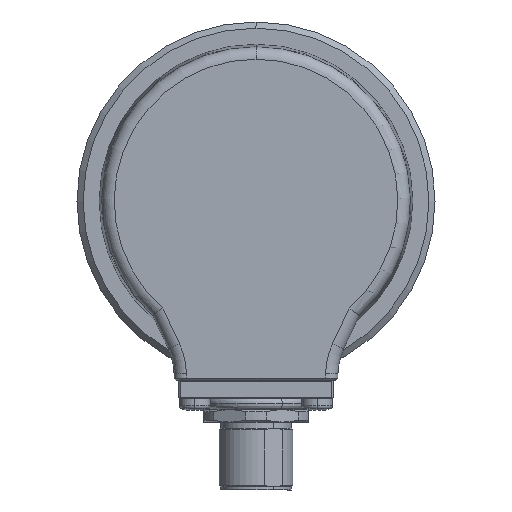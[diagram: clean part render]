
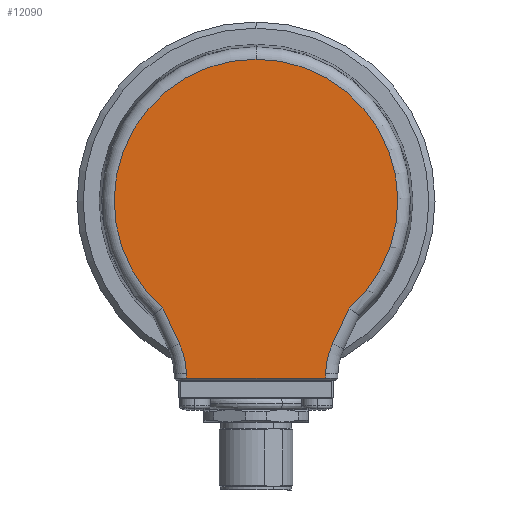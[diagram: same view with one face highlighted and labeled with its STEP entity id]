
A CAD part, left-side view. The second image highlights one B-rep face of the part: STEP entity #12090.
In plain terms, the highlighted planar face has unit normal (-1, 0, 0).
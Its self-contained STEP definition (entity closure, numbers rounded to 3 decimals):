
#1058 = EDGE_CURVE ( 'NONE', #14177, #10024, #5100, .T. ) ;
#1109 = EDGE_CURVE ( 'NONE', #10024, #13665, #5031, .T. ) ;
#1152 = EDGE_CURVE ( 'NONE', #13665, #1237, #4848, .T. ) ;
#1237 = VERTEX_POINT ( 'NONE', #5118 ) ;
#1255 = EDGE_CURVE ( 'NONE', #1237, #9789, #4640, .T. ) ;
#1295 = EDGE_CURVE ( 'NONE', #9789, #9384, #4539, .T. ) ;
#1359 = EDGE_CURVE ( 'NONE', #9384, #13023, #4304, .T. ) ;
#1466 = EDGE_CURVE ( 'NONE', #12086, #14967, #4119, .T. ) ;
#1594 = EDGE_CURVE ( 'NONE', #14967, #14177, #3688, .T. ) ;
#2880 = CARTESIAN_POINT ( 'NONE',  ( -21., 11.752, -0.205 ) ) ;
#3174 = DIRECTION ( 'NONE',  ( 0., -0.017, -1. ) ) ;
#3248 = DIRECTION ( 'NONE',  ( -1., 0., 0. ) ) ;
#3257 = DIRECTION ( 'NONE',  ( 0., 0., 1. ) ) ;
#3438 = CARTESIAN_POINT ( 'NONE',  ( -21., -11.25, -28.695 ) ) ;
#3457 = DIRECTION ( 'NONE',  ( 0., -1., 0. ) ) ;
#3688 = CIRCLE ( 'NONE', #9121, 12. ) ;
#3986 = CARTESIAN_POINT ( 'NONE',  ( -21., -11.752, -0.205 ) ) ;
#4023 = CARTESIAN_POINT ( 'NONE',  ( -21., 11.268, -27.974 ) ) ;
#4025 = DIRECTION ( 'NONE',  ( 0., -0.017, 1. ) ) ;
#4119 = LINE ( 'NONE', #13071, #4154 ) ;
#4154 = VECTOR ( 'NONE', #14688, 1000. ) ;
#4304 = CIRCLE ( 'NONE', #10654, 22.972 ) ;
#4424 = CARTESIAN_POINT ( 'NONE',  ( -21., 11.255, -28.695 ) ) ;
#4539 = LINE ( 'NONE', #7957, #4561 ) ;
#4558 = EDGE_CURVE ( 'NONE', #13023, #12086, #13241, .T. ) ;
#4561 = VECTOR ( 'NONE', #5171, 1000. ) ;
#4640 = CIRCLE ( 'NONE', #11140, 12. ) ;
#4848 = LINE ( 'NONE', #3986, #4880 ) ;
#4880 = VECTOR ( 'NONE', #4025, 1000. ) ;
#4921 = DIRECTION ( 'NONE',  ( 1., 0., 0. ) ) ;
#4994 = CARTESIAN_POINT ( 'NONE',  ( -21., 23.266, -28.183 ) ) ;
#4998 = DIRECTION ( 'NONE',  ( 0., 0., 1. ) ) ;
#5005 = VECTOR ( 'NONE', #3457, 1000. ) ;
#5031 = LINE ( 'NONE', #3438, #5005 ) ;
#5066 = VECTOR ( 'NONE', #3174, 1000. ) ;
#5100 = LINE ( 'NONE', #2880, #5066 ) ;
#5118 = CARTESIAN_POINT ( 'NONE',  ( -21., -11.268, -27.974 ) ) ;
#5171 = DIRECTION ( 'NONE',  ( 0., -0.423, 0.906 ) ) ;
#5293 = CARTESIAN_POINT ( 'NONE',  ( -21., -23.266, -28.183 ) ) ;
#5311 = DIRECTION ( 'NONE',  ( 1., 0., 0. ) ) ;
#5387 = DIRECTION ( 'NONE',  ( 0., 0., 1. ) ) ;
#6010 = CARTESIAN_POINT ( 'NONE',  ( -21., 0., 22.972 ) ) ;
#6525 = ORIENTED_EDGE ( 'NONE', *, *, #1109, .T. ) ;
#6612 = CARTESIAN_POINT ( 'NONE',  ( -21., -11.255, -28.695 ) ) ;
#7502 = FACE_OUTER_BOUND ( 'NONE', #10216, .T. ) ;
#7622 = DIRECTION ( 'NONE',  ( 0., 0., 1. ) ) ;
#7769 = ORIENTED_EDGE ( 'NONE', *, *, #4558, .T. ) ;
#7957 = CARTESIAN_POINT ( 'NONE',  ( -21., -14.953, -17.615 ) ) ;
#8570 = CARTESIAN_POINT ( 'NONE',  ( -21., 0., 0. ) ) ;
#8588 = DIRECTION ( 'NONE',  ( -1., 0., 0. ) ) ;
#9036 = ORIENTED_EDGE ( 'NONE', *, *, #1466, .T. ) ;
#9121 = AXIS2_PLACEMENT_3D ( 'NONE', #4994, #4921, #4998 ) ;
#9356 = CARTESIAN_POINT ( 'NONE',  ( -21., -12.39, -23.112 ) ) ;
#9384 = VERTEX_POINT ( 'NONE', #15368 ) ;
#9569 = DIRECTION ( 'NONE',  ( 0., 0., 1. ) ) ;
#9590 = DIRECTION ( 'NONE',  ( 1., 0., 0. ) ) ;
#9610 = PLANE ( 'NONE',  #16638 ) ;
#9675 = CARTESIAN_POINT ( 'NONE',  ( -21., 15.091, -17.32 ) ) ;
#9698 = ORIENTED_EDGE ( 'NONE', *, *, #1359, .T. ) ;
#9754 = CARTESIAN_POINT ( 'NONE',  ( -21., 0., 0. ) ) ;
#9789 = VERTEX_POINT ( 'NONE', #9356 ) ;
#10024 = VERTEX_POINT ( 'NONE', #4424 ) ;
#10216 = EDGE_LOOP ( 'NONE', ( #11151, #6525, #11780, #10744, #10304, #9698, #7769, #9036, #10508 ) ) ;
#10304 = ORIENTED_EDGE ( 'NONE', *, *, #1295, .T. ) ;
#10508 = ORIENTED_EDGE ( 'NONE', *, *, #1594, .T. ) ;
#10654 = AXIS2_PLACEMENT_3D ( 'NONE', #8570, #8588, #3257 ) ;
#10744 = ORIENTED_EDGE ( 'NONE', *, *, #1255, .T. ) ;
#11140 = AXIS2_PLACEMENT_3D ( 'NONE', #5293, #5311, #5387 ) ;
#11151 = ORIENTED_EDGE ( 'NONE', *, *, #1058, .T. ) ;
#11780 = ORIENTED_EDGE ( 'NONE', *, *, #1152, .T. ) ;
#12086 = VERTEX_POINT ( 'NONE', #9675 ) ;
#12090 = ADVANCED_FACE ( 'NONE', ( #7502 ), #9610, .F. ) ;
#12829 = CARTESIAN_POINT ( 'NONE',  ( -21., 12.39, -23.112 ) ) ;
#13023 = VERTEX_POINT ( 'NONE', #6010 ) ;
#13071 = CARTESIAN_POINT ( 'NONE',  ( -21., 12.39, -23.112 ) ) ;
#13241 = CIRCLE ( 'NONE', #14361, 22.972 ) ;
#13665 = VERTEX_POINT ( 'NONE', #6612 ) ;
#14177 = VERTEX_POINT ( 'NONE', #4023 ) ;
#14361 = AXIS2_PLACEMENT_3D ( 'NONE', #15954, #3248, #7622 ) ;
#14688 = DIRECTION ( 'NONE',  ( 0., -0.423, -0.906 ) ) ;
#14967 = VERTEX_POINT ( 'NONE', #12829 ) ;
#15368 = CARTESIAN_POINT ( 'NONE',  ( -21., -15.091, -17.32 ) ) ;
#15954 = CARTESIAN_POINT ( 'NONE',  ( -21., 0., 0. ) ) ;
#16638 = AXIS2_PLACEMENT_3D ( 'NONE', #9754, #9590, #9569 ) ;
